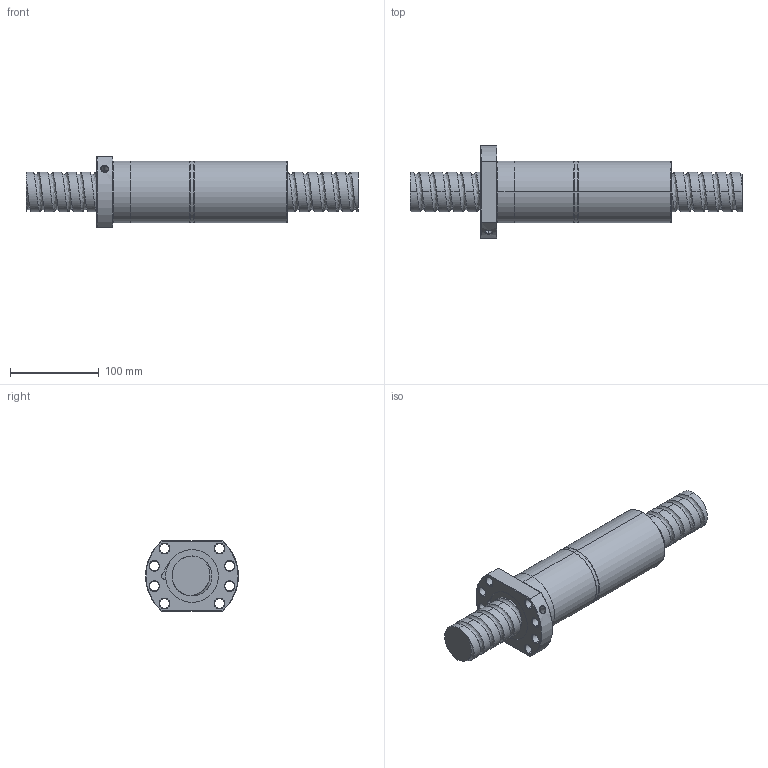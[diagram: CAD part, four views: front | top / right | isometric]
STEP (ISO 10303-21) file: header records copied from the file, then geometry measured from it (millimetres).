
FILE_DESCRIPTION (( 'STEP AP214' ), '1' );
FILE_NAME ('FDDC04516T5-F-C.STEP', '2010-07-07T01:48:02', ( 'XPAUTO' ), ( 'XPAUTO' ), 'SwSTEP 2.0', 'SolidWorks 2007', '' );
FILE_SCHEMA (( 'AUTOMOTIVE_DESIGN' ));
Length unit declared in the file: millimetre
Products named in the file (3): FDDC04516T5-F-C.sldasm-Part-1_預設; FDDC04516T5-F-C.sldasm-Part-2_預設; FDDC04516T5-F-C
Assembly tree (2 placements, depth 2):
  FDDC04516T5-F-C
    FDDC04516T5-F-C.sldasm-Part-2_預設
    FDDC04516T5-F-C.sldasm-Part-1_預設
Bounding box: 375 x 105 x 80 mm (x, y, z)
Volume: 1088974.1 mm3; surface area: 157799.9 mm2
Topology: 2 solids, 2 shells, 163 faces, 407 edges, 253 vertices
Faces by surface type: cylinder 94, cone 32, plane 22, torus 10, bspline 5
Entity records: 46794 total; most frequent: CARTESIAN_POINT 42939, ORIENTED_EDGE 814, DIRECTION 749, EDGE_CURVE 407, AXIS2_PLACEMENT_3D 303, VERTEX_POINT 253, EDGE_LOOP 188, FACE_OUTER_BOUND 163
